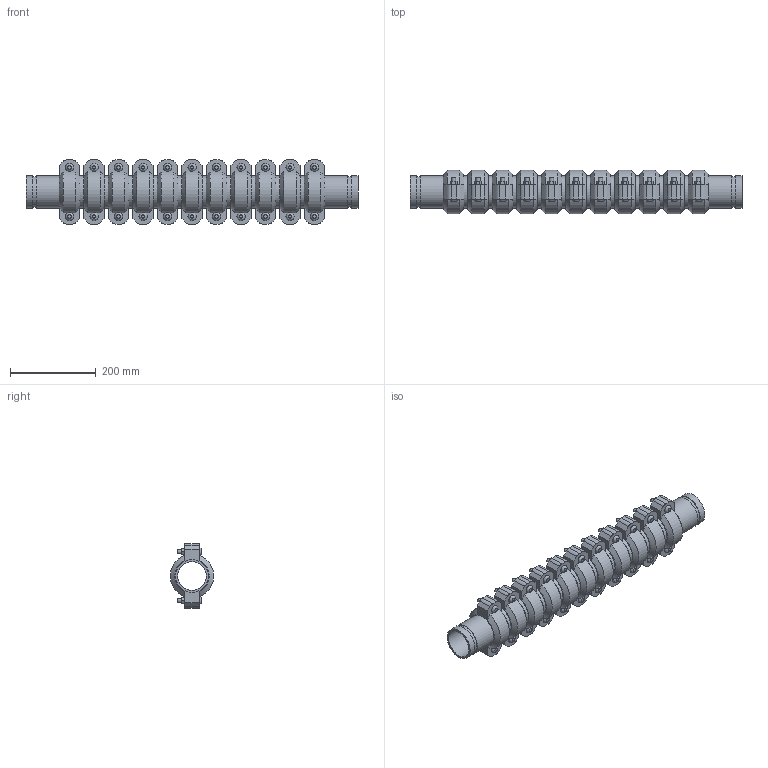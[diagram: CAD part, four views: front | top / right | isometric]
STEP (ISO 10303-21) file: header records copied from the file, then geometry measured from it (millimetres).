
FILE_DESCRIPTION(/* description */ ('VIC EXPANSION JOINT 11 COUPLINGS COMPRESSED STYLE 155 (OGS)','CAx-IF Rec.Pracs.---Representation and Presentation of Product Manufacturing Information (PMI)---4.0---2014-10-13'),/* implementation_level */ '2;1');
FILE_NAME(/* name */ 'C:\Users\kkamble\AppData\Roaming\Autodesk\ApplicationPlugins\Victaulic.Temp\A956\Victaulic_IPS_Expansion Joint_Compressed_11 Couplings_Style 155 (OGS)_02.5 (76.1) (65).stp',/* time_stamp */ '2021-06-27T00:18:54+02:00',/* author */ ('kkamble'),/* organization */ ('Victaulic'),/* preprocessor_version */ 'ST-DEVELOPER v17.2',/* originating_system */ 'Autodesk Inventor 2019',/* authorisation */ '');
FILE_SCHEMA (('AP242_MANAGED_MODEL_BASED_3D_ENGINEERING_MIM_LF { 1 0 10303 442 1 1 4 }'));
Length unit declared in the file: inch
Products named in the file (4): 155-02.5 (76.1); Nipple-02.5 (76.1); Nipple-02.5 (76.1)_1; 075-02.5 (76.1)
Assembly tree (23 placements, depth 2):
  155-02.5 (76.1)
    Nipple-02.5 (76.1)  x2
    Nipple-02.5 (76.1)_1  x10
    075-02.5 (76.1)  x11
Bounding box: 774.7 x 101.25 x 149.86 mm (x, y, z)
Volume: 3161750.7 mm3; surface area: 876454.5 mm2
Topology: 23 solids, 45 shells, 727 faces, 1801 edges, 1256 vertices
Faces by surface type: plane 446, cylinder 215, cone 44, bspline 22
Full cylindrical faces by diameter (mm): 9.525 x44, 11.43 x22, 66.65 x12, 72.263 x24, 76.2 x47
Entity records: 2853 total; most frequent: CARTESIAN_POINT 525, DIRECTION 473, ORIENTED_EDGE 382, EDGE_CURVE 191, AXIS2_PLACEMENT_3D 190, VERTEX_POINT 136, EDGE_LOOP 99, LINE 93
